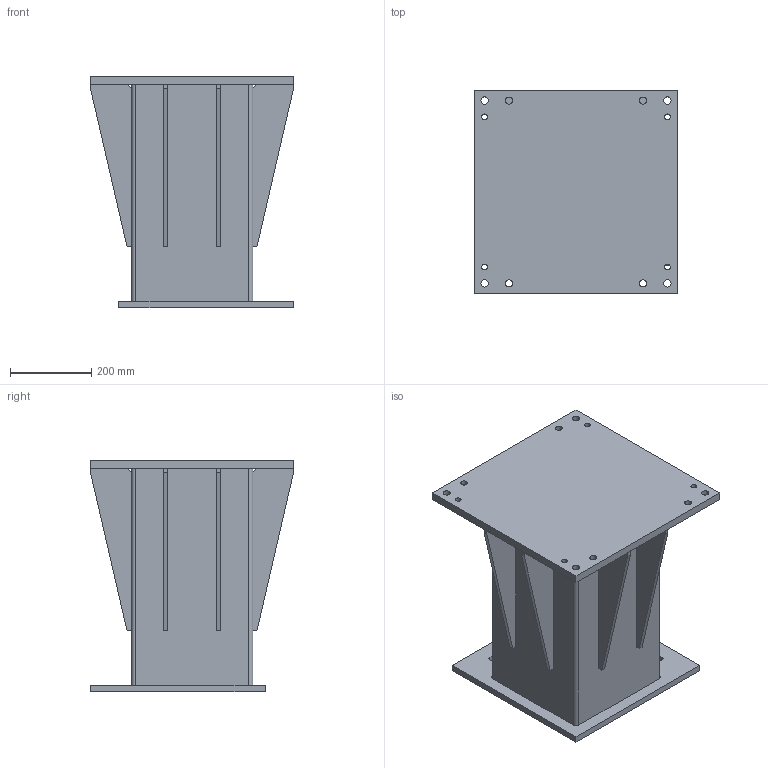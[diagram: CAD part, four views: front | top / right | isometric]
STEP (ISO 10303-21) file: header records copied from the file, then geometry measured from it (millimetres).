
FILE_DESCRIPTION (( 'STEP AP214' ), '1' );
FILE_NAME ('FAU-WSIGHT11-006-C .STEP', '2025-05-15T07:38:34', ( '' ), ( '' ), 'SwSTEP 2.0', 'SolidWorks 2017', '' );
FILE_SCHEMA (( 'AUTOMOTIVE_DESIGN' ));
Length unit declared in the file: millimetre
Products named in the file (1): FAU-WSIGHT11-006-C 
Bounding box: 500 x 500 x 571 mm (x, y, z)
Volume: 12707193.6 mm3; surface area: 2627285.6 mm2
Topology: 11 solids, 11 shells, 137 faces, 345 edges, 230 vertices
Faces by surface type: plane 95, cylinder 42
Entity records: 4394 total; most frequent: CARTESIAN_POINT 713, DIRECTION 705, ORIENTED_EDGE 690, EDGE_CURVE 345, VECTOR 261, LINE 261, VERTEX_POINT 230, AXIS2_PLACEMENT_3D 222
